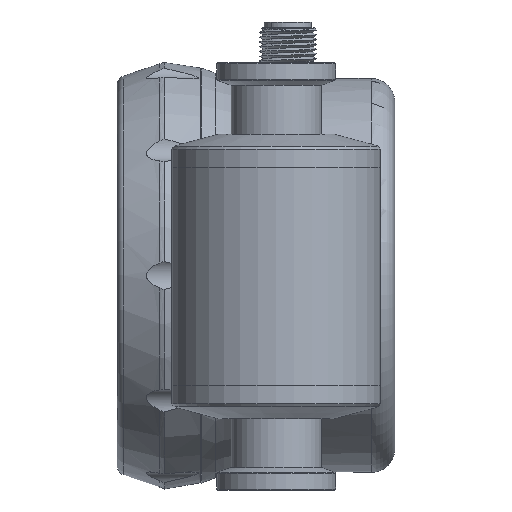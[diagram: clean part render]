
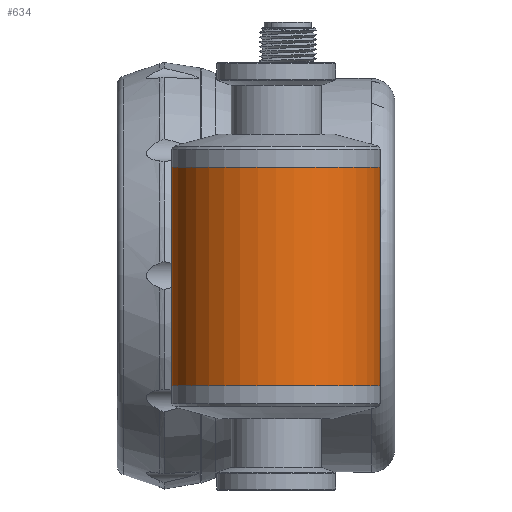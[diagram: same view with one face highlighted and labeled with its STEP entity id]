
A CAD part, front view. The second image highlights one B-rep face of the part: STEP entity #634.
In plain terms, the highlighted cylindrical face has radius 22 mm (diameter 44 mm), a full revolution.
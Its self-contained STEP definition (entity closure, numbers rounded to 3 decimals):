
#63=LINE('',#4314,#112);
#64=LINE('',#4319,#113);
#112=VECTOR('',#3480,1.);
#113=VECTOR('',#3483,1.);
#281=B_SPLINE_CURVE_WITH_KNOTS('',3,(#4323,#4324,#4325,#4326,#4327,#4328,
#4329,#4330,#4331,#4332),.UNSPECIFIED.,.F.,.F.,(4,2,2,2,4),(0.,0.25,0.5,
0.75,1.),.UNSPECIFIED.);
#282=B_SPLINE_CURVE_WITH_KNOTS('',3,(#4334,#4335,#4336,#4337,#4338,#4339,
#4340,#4341,#4342,#4343),.UNSPECIFIED.,.F.,.F.,(4,2,2,2,4),(0.,0.25,0.5,
0.75,1.),.UNSPECIFIED.);
#634=ADVANCED_FACE('',(#944,#945,#946),#812,.T.);
#812=CYLINDRICAL_SURFACE('',#3027,22.);
#944=FACE_BOUND('',#1135,.T.);
#945=FACE_BOUND('',#1136,.T.);
#946=FACE_BOUND('',#1137,.T.);
#1135=EDGE_LOOP('',(#1445,#1446,#1447,#1448));
#1136=EDGE_LOOP('',(#1449));
#1137=EDGE_LOOP('',(#1450));
#1445=ORIENTED_EDGE('',*,*,#2416,.F.);
#1446=ORIENTED_EDGE('',*,*,#2420,.F.);
#1447=ORIENTED_EDGE('',*,*,#2418,.F.);
#1448=ORIENTED_EDGE('',*,*,#2421,.F.);
#1449=ORIENTED_EDGE('',*,*,#2422,.F.);
#1450=ORIENTED_EDGE('',*,*,#2423,.T.);
#2141=VERTEX_POINT('',#4315);
#2142=VERTEX_POINT('',#4316);
#2143=VERTEX_POINT('',#4318);
#2144=VERTEX_POINT('',#4320);
#2145=VERTEX_POINT('',#4346);
#2146=VERTEX_POINT('',#4349);
#2416=EDGE_CURVE('',#2141,#2142,#63,.T.);
#2418=EDGE_CURVE('',#2143,#2144,#64,.T.);
#2420=EDGE_CURVE('',#2144,#2141,#281,.T.);
#2421=EDGE_CURVE('',#2142,#2143,#282,.T.);
#2422=EDGE_CURVE('',#2145,#2145,#2785,.T.);
#2423=EDGE_CURVE('',#2146,#2146,#2786,.T.);
#2785=CIRCLE('',#3023,22.);
#2786=CIRCLE('',#3025,22.);
#3023=AXIS2_PLACEMENT_3D('',#4345,#3492,#3493);
#3025=AXIS2_PLACEMENT_3D('',#4348,#3496,#3497);
#3027=AXIS2_PLACEMENT_3D('',#4351,#3500,#3501);
#3480=DIRECTION('',(0.,0.,-1.));
#3483=DIRECTION('',(0.,0.,1.));
#3492=DIRECTION('',(0.,0.,1.));
#3493=DIRECTION('',(1.,0.,0.));
#3496=DIRECTION('',(0.,0.,1.));
#3497=DIRECTION('',(1.,0.,0.));
#3500=DIRECTION('',(0.,0.,-1.));
#3501=DIRECTION('',(1.,0.,0.));
#4314=CARTESIAN_POINT('',(62.165,26.5,17.));
#4315=CARTESIAN_POINT('',(62.165,26.5,9.96));
#4316=CARTESIAN_POINT('',(62.165,26.5,-9.96));
#4318=CARTESIAN_POINT('',(43.835,26.5,-9.96));
#4319=CARTESIAN_POINT('',(43.835,26.5,17.));
#4320=CARTESIAN_POINT('',(43.835,26.5,9.96));
#4323=CARTESIAN_POINT('',(43.835,26.5,9.96));
#4324=CARTESIAN_POINT('',(44.833,26.958,11.501));
#4325=CARTESIAN_POINT('',(46.103,27.453,12.873));
#4326=CARTESIAN_POINT('',(49.236,28.236,14.912));
#4327=CARTESIAN_POINT('',(51.081,28.5,15.535));
#4328=CARTESIAN_POINT('',(54.915,28.5,15.536));
#4329=CARTESIAN_POINT('',(56.764,28.236,14.913));
#4330=CARTESIAN_POINT('',(59.899,27.453,12.871));
#4331=CARTESIAN_POINT('',(61.166,26.958,11.502));
#4332=CARTESIAN_POINT('',(62.165,26.5,9.96));
#4334=CARTESIAN_POINT('',(62.165,26.5,-9.96));
#4335=CARTESIAN_POINT('',(61.167,26.958,-11.501));
#4336=CARTESIAN_POINT('',(59.897,27.453,-12.873));
#4337=CARTESIAN_POINT('',(56.764,28.236,-14.912));
#4338=CARTESIAN_POINT('',(54.919,28.5,-15.535));
#4339=CARTESIAN_POINT('',(51.085,28.5,-15.536));
#4340=CARTESIAN_POINT('',(49.236,28.236,-14.913));
#4341=CARTESIAN_POINT('',(46.101,27.453,-12.871));
#4342=CARTESIAN_POINT('',(44.834,26.958,-11.502));
#4343=CARTESIAN_POINT('',(43.835,26.5,-9.96));
#4345=CARTESIAN_POINT('',(53.,6.5,23.));
#4346=CARTESIAN_POINT('',(75.,6.5,23.));
#4348=CARTESIAN_POINT('',(53.,6.5,-23.));
#4349=CARTESIAN_POINT('',(75.,6.5,-23.));
#4351=CARTESIAN_POINT('',(53.,6.5,17.));
